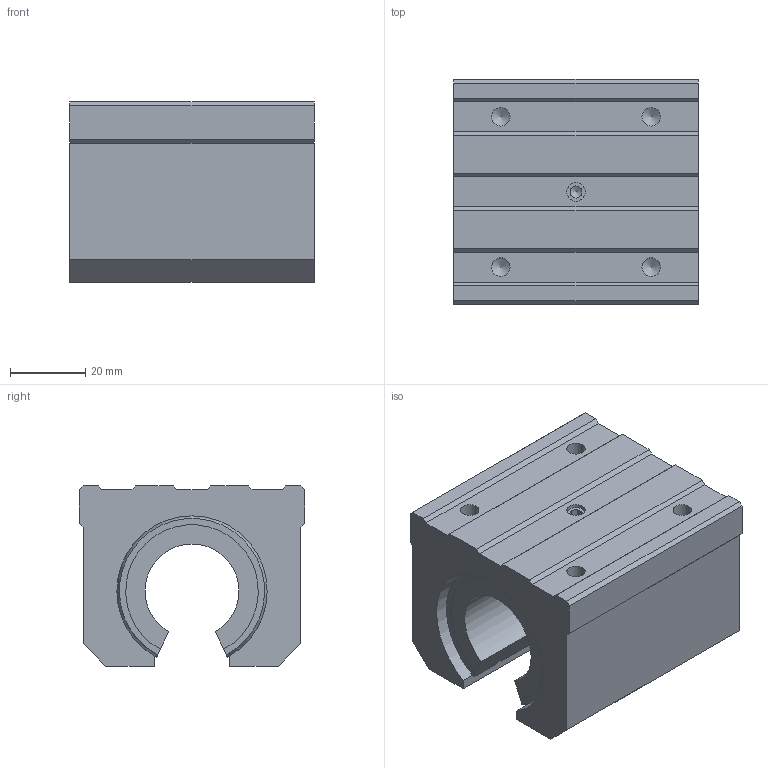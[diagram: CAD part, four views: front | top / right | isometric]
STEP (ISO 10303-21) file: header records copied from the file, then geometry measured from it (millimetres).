
FILE_DESCRIPTION((''),'2;1');
FILE_NAME('D:\製品 (図面)\カタログ用3D\GH25H.stp','2010-06-07T16:09:39',('Tsuchiya'),(''),'Autodesk Inventor 10','Autodesk Inventor 10','');
FILE_SCHEMA(('AUTOMOTIVE_DESIGN { 1 0 10303 214 1 1 1 1 }'));
Length unit declared in the file: millimetre
Products named in the file (1): GH25H
Bounding box: 65 x 60 x 48 mm (x, y, z)
Volume: 131914 mm3; surface area: 24621.6 mm2
Topology: 1 solids, 1 shells, 73 faces, 207 edges, 133 vertices
Faces by surface type: plane 45, cylinder 17, bspline 6, cone 3, torus 2
Full cylindrical faces by diameter (mm): 4.917 x2
Entity records: 2354 total; most frequent: CARTESIAN_POINT 532, ORIENTED_EDGE 380, DIRECTION 358, EDGE_CURVE 190, VECTOR 138, LINE 138, VERTEX_POINT 126, AXIS2_PLACEMENT_3D 110
